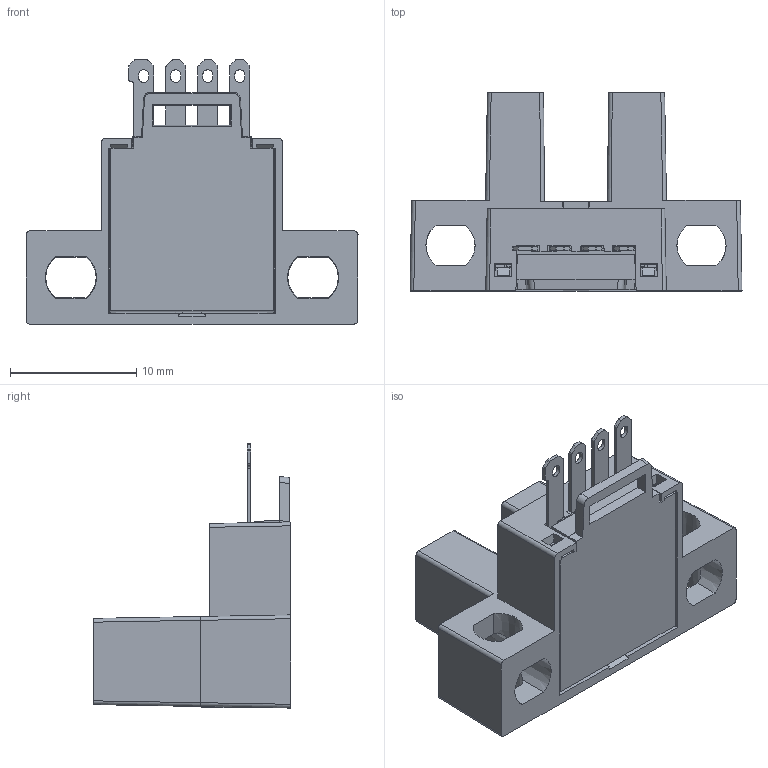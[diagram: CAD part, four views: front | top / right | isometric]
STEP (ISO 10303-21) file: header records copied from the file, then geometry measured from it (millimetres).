
FILE_DESCRIPTION(/* description */ (''),/* implementation_level */ '2;1');
FILE_NAME(/* name */ '305-接插件.stp',/* time_stamp */ '2016-12-22T15:48:44+08:00',/* author */ (''),/* organization */ (''),/* preprocessor_version */ 'ST-DEVELOPER v16',/* originating_system */ 'SIEMENS PLM Software NX 10.0',/* authorisation */ '');
FILE_SCHEMA (('AP203_CONFIGURATION_CONTROLLED_3D_DESIGN_OF_MECHANICAL_PARTS_AND_ASSEMBLIES_MIM_LF { 1 0 10303 403 2 1 2}'));
Length unit declared in the file: millimetre
Products named in the file (1): Gavi0C983A09kauk
Bounding box: 26.33 x 15.7 x 20.94 mm (x, y, z)
Volume: 1425.8 mm3; surface area: 3691.4 mm2
Topology: 10 solids, 10 shells, 573 faces, 1614 edges, 1065 vertices
Faces by surface type: plane 465, cylinder 92, cone 14, sphere 2
Full cylindrical faces by diameter (mm): 0.7 x4, 1.5 x2
Entity records: 18549 total; most frequent: CARTESIAN_POINT 3624, ORIENTED_EDGE 3204, DIRECTION 2849, EDGE_CURVE 1602, LINE 1333, VECTOR 1333, VERTEX_POINT 1059, AXIS2_PLACEMENT_3D 758
